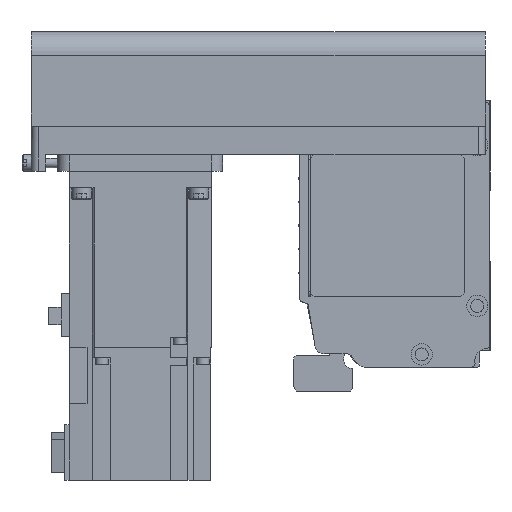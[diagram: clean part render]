
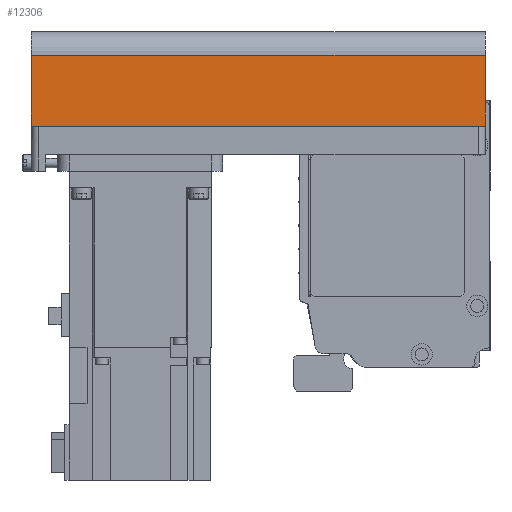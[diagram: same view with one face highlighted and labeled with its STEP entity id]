
A CAD part, left-side view. The second image highlights one B-rep face of the part: STEP entity #12306.
In plain terms, the highlighted planar face has unit normal (-1, 0, 0) as drawn and (0, 1, 0) by its records, which use the part's own axes.
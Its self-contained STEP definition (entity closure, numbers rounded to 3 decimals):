
#2203=ORIENTED_EDGE('',*,*,#4993,.F.);
#2204=ORIENTED_EDGE('',*,*,#5025,.F.);
#2205=ORIENTED_EDGE('',*,*,#4980,.T.);
#2206=ORIENTED_EDGE('',*,*,#4965,.T.);
#4965=EDGE_CURVE('',#6519,#6520,#7759,.T.);
#4980=EDGE_CURVE('',#6531,#6519,#7772,.T.);
#4993=EDGE_CURVE('',#6541,#6520,#7781,.T.);
#5025=EDGE_CURVE('',#6531,#6541,#7793,.T.);
#6519=VERTEX_POINT('',#19175);
#6520=VERTEX_POINT('',#19176);
#6531=VERTEX_POINT('',#19204);
#6541=VERTEX_POINT('',#19231);
#7759=LINE('',#19174,#8987);
#7772=LINE('',#19203,#9000);
#7781=LINE('',#19230,#9009);
#7793=LINE('',#19285,#9021);
#8987=VECTOR('',#15410,1000.);
#9000=VECTOR('',#15431,1000.);
#9009=VECTOR('',#15456,1000.);
#9021=VECTOR('',#15534,1000.);
#10076=EDGE_LOOP('',(#2203,#2204,#2205,#2206));
#10994=FACE_BOUND('',#10076,.T.);
#11745=PLANE('',#13265);
#12306=ADVANCED_FACE('',(#10994),#11745,.T.);
#13265=AXIS2_PLACEMENT_3D('',#19284,#15532,#15533);
#15410=DIRECTION('',(1.,0.,0.));
#15431=DIRECTION('',(0.,0.,1.));
#15456=DIRECTION('',(0.,0.,1.));
#15532=DIRECTION('',(0.,1.,0.));
#15533=DIRECTION('',(0.,0.,1.));
#15534=DIRECTION('',(1.,0.,0.));
#19174=CARTESIAN_POINT('',(-192.,40.,-12.1));
#19175=CARTESIAN_POINT('',(-192.,40.,-12.1));
#19176=CARTESIAN_POINT('',(0.,40.,-12.1));
#19203=CARTESIAN_POINT('',(-192.,40.,-42.));
#19204=CARTESIAN_POINT('',(-192.,40.,-42.));
#19230=CARTESIAN_POINT('',(0.,40.,-42.));
#19231=CARTESIAN_POINT('',(0.,40.,-42.));
#19284=CARTESIAN_POINT('',(-192.,40.,-42.));
#19285=CARTESIAN_POINT('',(-192.,40.,-42.));
